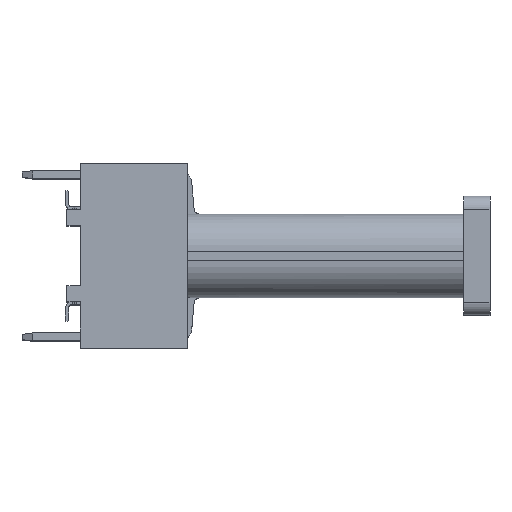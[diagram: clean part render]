
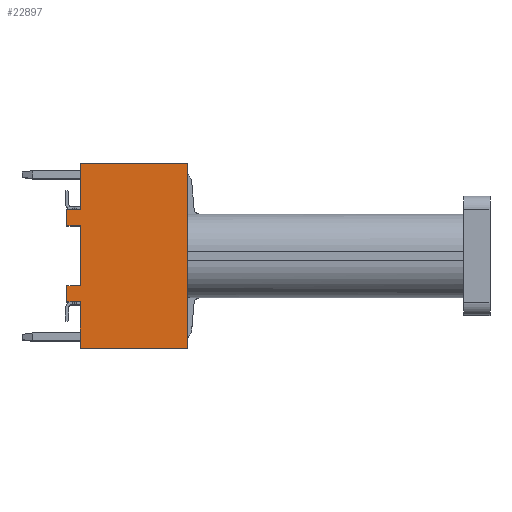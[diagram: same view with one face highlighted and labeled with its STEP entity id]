
A CAD part, top view. The second image highlights one B-rep face of the part: STEP entity #22897.
In plain terms, the highlighted planar face has unit normal (0, 0, 1).
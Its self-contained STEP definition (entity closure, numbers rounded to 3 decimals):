
#1043=DIRECTION('',(0.,-1.,0.));
#1044=VECTOR('',#1043,2.27);
#1045=CARTESIAN_POINT('',(-10.373,0.86,
13.125));
#1046=LINE('',#1045,#1044);
#1055=DIRECTION('',(0.,-1.,0.));
#1056=VECTOR('',#1055,1.765);
#1057=CARTESIAN_POINT('',(-10.373,-2.01,
13.125));
#1058=LINE('',#1057,#1056);
#1095=DIRECTION('',(-1.,0.,0.));
#1096=VECTOR('',#1095,4.05);
#1097=CARTESIAN_POINT('',(-6.323,-3.775,
13.125));
#1098=LINE('',#1097,#1096);
#1099=DIRECTION('',(-1.,0.,0.));
#1100=VECTOR('',#1099,0.5);
#1101=CARTESIAN_POINT('',(-10.373,-2.01,
13.125));
#1102=LINE('',#1101,#1100);
#1103=DIRECTION('',(0.,1.,0.));
#1104=VECTOR('',#1103,0.6);
#1105=CARTESIAN_POINT('',(-10.873,-2.01,
13.125));
#1106=LINE('',#1105,#1104);
#1107=DIRECTION('',(-1.,0.,0.));
#1108=VECTOR('',#1107,0.5);
#1109=CARTESIAN_POINT('',(-10.373,0.86,
13.125));
#1110=LINE('',#1109,#1108);
#1111=DIRECTION('',(0.,1.,0.));
#1112=VECTOR('',#1111,0.6);
#1113=CARTESIAN_POINT('',(-10.873,0.86,
13.125));
#1114=LINE('',#1113,#1112);
#1115=DIRECTION('',(0.,1.,0.));
#1116=VECTOR('',#1115,1.765);
#1117=CARTESIAN_POINT('',(-10.373,1.46,13.125));
#1118=LINE('',#1117,#1116);
#1119=DIRECTION('',(1.,0.,0.));
#1120=VECTOR('',#1119,4.05);
#1121=CARTESIAN_POINT('',(-10.373,3.225,13.125));
#1122=LINE('',#1121,#1120);
#1148=DIRECTION('',(0.,1.,0.));
#1149=VECTOR('',#1148,7.);
#1150=CARTESIAN_POINT('',(-6.323,-3.775,
13.125));
#1151=LINE('',#1150,#1149);
#17205=DIRECTION('',(-1.,0.,0.));
#17206=VECTOR('',#17205,0.5);
#17207=CARTESIAN_POINT('',(-10.373,-1.41,
13.125));
#17208=LINE('',#17207,#17206);
#17233=DIRECTION('',(-1.,0.,0.));
#17234=VECTOR('',#17233,0.5);
#17235=CARTESIAN_POINT('',(-10.373,1.46,
13.125));
#17236=LINE('',#17235,#17234);
#18387=CARTESIAN_POINT('',(-10.373,3.225,
13.125));
#18388=VERTEX_POINT('',#18387);
#18389=CARTESIAN_POINT('',(-10.373,1.46,
13.125));
#18390=VERTEX_POINT('',#18389);
#18395=CARTESIAN_POINT('',(-10.373,0.86,
13.125));
#18396=VERTEX_POINT('',#18395);
#18397=CARTESIAN_POINT('',(-10.873,0.86,
13.125));
#18398=VERTEX_POINT('',#18397);
#18399=CARTESIAN_POINT('',(-10.873,1.46,
13.125));
#18400=VERTEX_POINT('',#18399);
#18401=CARTESIAN_POINT('',(-6.323,3.225,
13.125));
#18402=VERTEX_POINT('',#18401);
#18739=CARTESIAN_POINT('',(-6.323,-3.775,
13.125));
#18740=CARTESIAN_POINT('',(-10.373,-3.775,
13.125));
#18741=VERTEX_POINT('',#18739);
#18742=VERTEX_POINT('',#18740);
#18743=CARTESIAN_POINT('',(-10.373,-2.01,
13.125));
#18744=VERTEX_POINT('',#18743);
#18745=CARTESIAN_POINT('',(-10.873,-2.01,
13.125));
#18746=VERTEX_POINT('',#18745);
#18747=CARTESIAN_POINT('',(-10.873,-1.41,
13.125));
#18748=VERTEX_POINT('',#18747);
#18749=CARTESIAN_POINT('',(-10.373,-1.41,
13.125));
#18750=VERTEX_POINT('',#18749);
#22869=CARTESIAN_POINT('',(-7.907,2.595,
13.125));
#22870=DIRECTION('',(0.,0.,1.));
#22871=DIRECTION('',(1.,0.,0.));
#22872=AXIS2_PLACEMENT_3D('',#22869,#22870,#22871);
#22873=PLANE('',#22872);
#22875=ORIENTED_EDGE('',*,*,#22874,.F.);
#22877=ORIENTED_EDGE('',*,*,#22876,.T.);
#22878=ORIENTED_EDGE('',*,*,#22842,.F.);
#22880=ORIENTED_EDGE('',*,*,#22879,.T.);
#22882=ORIENTED_EDGE('',*,*,#22881,.T.);
#22884=ORIENTED_EDGE('',*,*,#22883,.F.);
#22885=ORIENTED_EDGE('',*,*,#22834,.F.);
#22887=ORIENTED_EDGE('',*,*,#22886,.T.);
#22889=ORIENTED_EDGE('',*,*,#22888,.T.);
#22891=ORIENTED_EDGE('',*,*,#22890,.F.);
#22892=ORIENTED_EDGE('',*,*,#22858,.T.);
#22894=ORIENTED_EDGE('',*,*,#22893,.T.);
#22895=EDGE_LOOP('',(#22875,#22877,#22878,#22880,#22882,#22884,#22885,#22887,
#22889,#22891,#22892,#22894));
#22896=FACE_OUTER_BOUND('',#22895,.F.);
#22834=EDGE_CURVE('',#18396,#18750,#1046,.T.);
#22842=EDGE_CURVE('',#18744,#18742,#1058,.T.);
#22858=EDGE_CURVE('',#18390,#18388,#1118,.T.);
#22874=EDGE_CURVE('',#18741,#18402,#1151,.T.);
#22876=EDGE_CURVE('',#18741,#18742,#1098,.T.);
#22879=EDGE_CURVE('',#18744,#18746,#1102,.T.);
#22881=EDGE_CURVE('',#18746,#18748,#1106,.T.);
#22883=EDGE_CURVE('',#18750,#18748,#17208,.T.);
#22886=EDGE_CURVE('',#18396,#18398,#1110,.T.);
#22888=EDGE_CURVE('',#18398,#18400,#1114,.T.);
#22890=EDGE_CURVE('',#18390,#18400,#17236,.T.);
#22893=EDGE_CURVE('',#18388,#18402,#1122,.T.);
#22897=ADVANCED_FACE('',(#22896),#22873,.T.);
